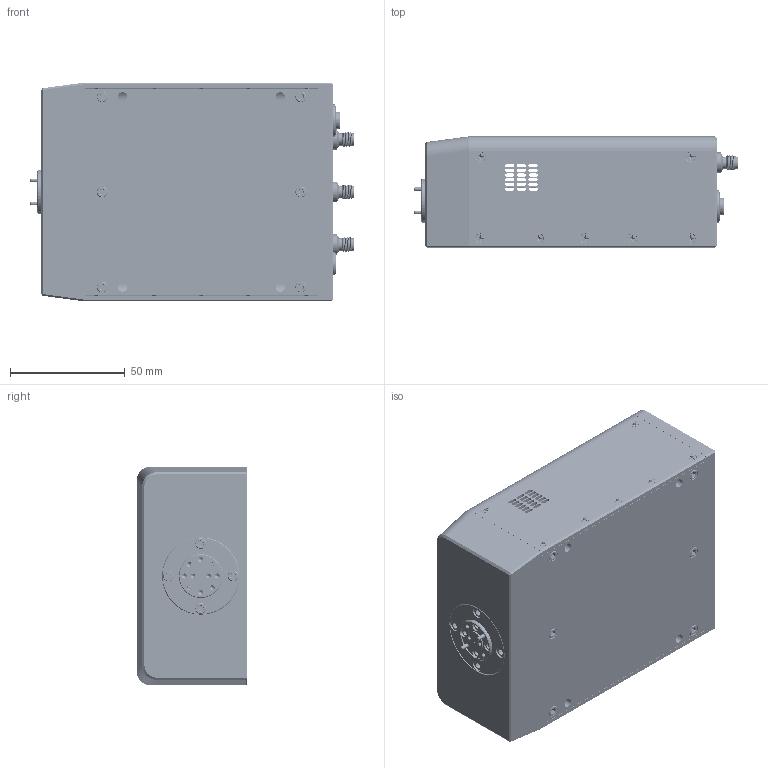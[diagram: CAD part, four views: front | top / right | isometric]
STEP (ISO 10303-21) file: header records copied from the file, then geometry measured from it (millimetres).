
FILE_DESCRIPTION (( 'STEP AP214' ), '1' );
FILE_NAME ('TO-TF-A Mountable.STEP', '2024-11-20T17:38:23', ( '' ), ( '' ), 'SwSTEP 2.0', 'SolidWorks 2021', '' );
FILE_SCHEMA (( 'AUTOMOTIVE_DESIGN' ));
Length unit declared in the file: inch
Products named in the file (1): TO-TF-A Mountable
Bounding box: 140.66 x 48.26 x 95.25 mm (x, y, z)
Volume: 178161.3 mm3; surface area: 117442.2 mm2
Topology: 67 solids, 67 shells, 3785 faces, 10020 edges, 6367 vertices
Faces by surface type: cylinder 1759, plane 951, cone 695, bspline 351, sphere 21, torus 8
Entity records: 264952 total; most frequent: CARTESIAN_POINT 130621, ORIENTED_EDGE 19706, DIRECTION 15255, EDGE_CURVE 9853, VERTEX_POINT 6361, AXIS2_PLACEMENT_3D 5788, EDGE_LOOP 4170, LENGTH_MEASURE_WITH_UNIT 3854
